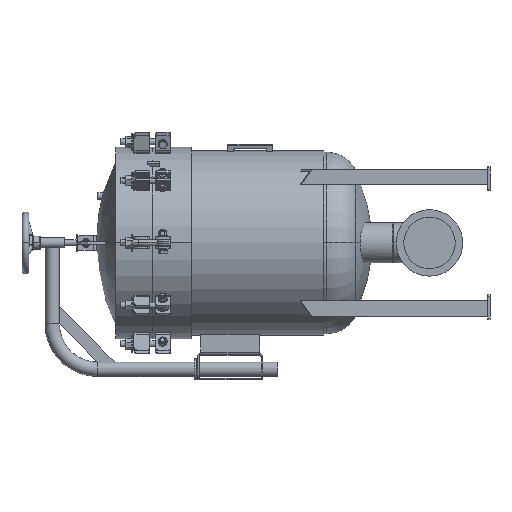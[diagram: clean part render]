
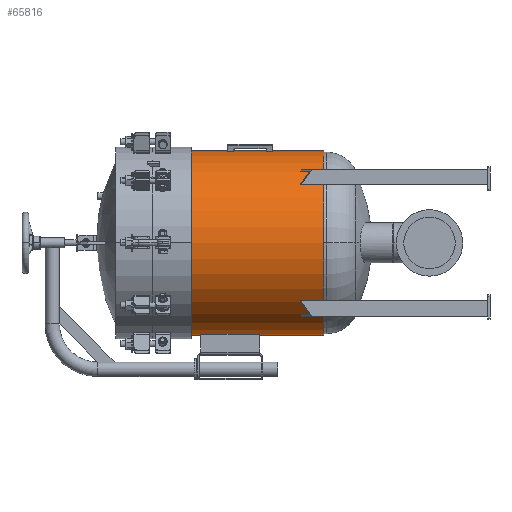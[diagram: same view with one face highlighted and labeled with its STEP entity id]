
A CAD part, left-side view. The second image highlights one B-rep face of the part: STEP entity #65816.
In plain terms, the highlighted cylindrical face has radius 387.35 mm (diameter 774.7 mm), a partial arc.
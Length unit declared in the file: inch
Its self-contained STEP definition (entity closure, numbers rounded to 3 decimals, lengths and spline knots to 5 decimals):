
#1299 = VECTOR ( 'NONE', #5639, 39.37008 ) ;
#2550 = CIRCLE ( 'NONE', #44281, 15.25 ) ;
#2640 = EDGE_CURVE ( 'NONE', #26825, #26752, #49444, .T. ) ;
#3238 = AXIS2_PLACEMENT_3D ( 'NONE', #18023, #38465, #8964 ) ;
#3671 = VECTOR ( 'NONE', #59623, 39.37008 ) ;
#4064 = CARTESIAN_POINT ( 'NONE',  ( -2.4413, -18.9375, 15.05332 ) ) ;
#4130 = CARTESIAN_POINT ( 'NONE',  ( 0., -3.34375, 15.25 ) ) ;
#4870 = FACE_OUTER_BOUND ( 'NONE', #63690, .T. ) ;
#5285 = AXIS2_PLACEMENT_3D ( 'NONE', #21896, #53942, #6476 ) ;
#5639 = DIRECTION ( 'NONE',  ( 0., 1., 0. ) ) ;
#5686 = CARTESIAN_POINT ( 'NONE',  ( 0., -28.34375, 0. ) ) ;
#6444 = VECTOR ( 'NONE', #66122, 39.37008 ) ;
#6476 = DIRECTION ( 'NONE',  ( 0., 0., 1. ) ) ;
#8453 = VERTEX_POINT ( 'NONE', #52765 ) ;
#8964 = DIRECTION ( 'NONE',  ( 0., 0., 1. ) ) ;
#9863 = CARTESIAN_POINT ( 'NONE',  ( 0., -6.5, 0. ) ) ;
#10536 = DIRECTION ( 'NONE',  ( -1., 0., 0. ) ) ;
#11731 = LINE ( 'NONE', #36903, #28017 ) ;
#11880 = ORIENTED_EDGE ( 'NONE', *, *, #55689, .T. ) ;
#16982 = ORIENTED_EDGE ( 'NONE', *, *, #57709, .F. ) ;
#17964 = VERTEX_POINT ( 'NONE', #48110 ) ;
#18023 = CARTESIAN_POINT ( 'NONE',  ( 0., -18.9375, 0. ) ) ;
#19032 = ORIENTED_EDGE ( 'NONE', *, *, #62247, .F. ) ;
#19455 = CARTESIAN_POINT ( 'NONE',  ( -2.37926, -12.5, 15.06325 ) ) ;
#19614 = ORIENTED_EDGE ( 'NONE', *, *, #35535, .F. ) ;
#19892 = ORIENTED_EDGE ( 'NONE', *, *, #34223, .T. ) ;
#21896 = CARTESIAN_POINT ( 'NONE',  ( 0., -12.5, 0. ) ) ;
#21925 = VERTEX_POINT ( 'NONE', #44467 ) ;
#24086 = CIRCLE ( 'NONE', #27309, 15.25 ) ;
#24538 = CIRCLE ( 'NONE', #33118, 15.25 ) ;
#25003 = EDGE_LOOP ( 'NONE', ( #55816, #52275, #19614, #19892 ) ) ;
#25470 = DIRECTION ( 'NONE',  ( 0., 1., 0. ) ) ;
#26467 = VERTEX_POINT ( 'NONE', #36939 ) ;
#26529 = LINE ( 'NONE', #46956, #61362 ) ;
#26752 = VERTEX_POINT ( 'NONE', #39485 ) ;
#26825 = VERTEX_POINT ( 'NONE', #65273 ) ;
#26857 = LINE ( 'NONE', #47280, #3671 ) ;
#27309 = AXIS2_PLACEMENT_3D ( 'NONE', #9863, #56104, #10536 ) ;
#27334 = DIRECTION ( 'NONE',  ( 0., 0., -1. ) ) ;
#27640 = DIRECTION ( 'NONE',  ( 0., -1., 0. ) ) ;
#27713 = ORIENTED_EDGE ( 'NONE', *, *, #28325, .T. ) ;
#27881 = CIRCLE ( 'NONE', #5285, 15.25 ) ;
#28017 = VECTOR ( 'NONE', #57326, 39.37008 ) ;
#28325 = EDGE_CURVE ( 'NONE', #8453, #21925, #24538, .T. ) ;
#28540 = VERTEX_POINT ( 'NONE', #29426 ) ;
#28570 = EDGE_CURVE ( 'NONE', #43298, #30983, #43873, .T. ) ;
#29130 = VECTOR ( 'NONE', #46756, 39.37008 ) ;
#29426 = CARTESIAN_POINT ( 'NONE',  ( 0., -6.5, 15.25 ) ) ;
#30336 = CYLINDRICAL_SURFACE ( 'NONE', #42763, 15.25 ) ;
#30359 = EDGE_CURVE ( 'NONE', #58855, #43298, #51203, .T. ) ;
#30448 = DIRECTION ( 'NONE',  ( 0., -1., 0. ) ) ;
#30629 = ORIENTED_EDGE ( 'NONE', *, *, #28570, .T. ) ;
#30793 = ORIENTED_EDGE ( 'NONE', *, *, #56005, .F. ) ;
#30983 = VERTEX_POINT ( 'NONE', #51699 ) ;
#31126 = CARTESIAN_POINT ( 'NONE',  ( 0., -19.9375, 0. ) ) ;
#31127 = CARTESIAN_POINT ( 'NONE',  ( -2.4413, -3.34375, 15.05332 ) ) ;
#33118 = AXIS2_PLACEMENT_3D ( 'NONE', #5686, #25470, #56285 ) ;
#34007 = CARTESIAN_POINT ( 'NONE',  ( -2.4413, -19.9375, 15.05332 ) ) ;
#34223 = EDGE_CURVE ( 'NONE', #44831, #26825, #2550, .T. ) ;
#35535 = EDGE_CURVE ( 'NONE', #44831, #60091, #26529, .T. ) ;
#36047 = FACE_BOUND ( 'NONE', #61143, .T. ) ;
#36903 = CARTESIAN_POINT ( 'NONE',  ( -2.37926, -19.9375, 15.06325 ) ) ;
#36939 = CARTESIAN_POINT ( 'NONE',  ( 0., -6.5, -15.25 ) ) ;
#38465 = DIRECTION ( 'NONE',  ( 0., 1., 0. ) ) ;
#39485 = CARTESIAN_POINT ( 'NONE',  ( -2.4413, -12.5, 15.05332 ) ) ;
#40049 = DIRECTION ( 'NONE',  ( 0., -1., 0. ) ) ;
#40717 = FACE_BOUND ( 'NONE', #25003, .T. ) ;
#41546 = EDGE_CURVE ( 'NONE', #26752, #60091, #27881, .T. ) ;
#42763 = AXIS2_PLACEMENT_3D ( 'NONE', #45069, #40049, #46405 ) ;
#43298 = VERTEX_POINT ( 'NONE', #4064 ) ;
#43873 = CIRCLE ( 'NONE', #3238, 15.25 ) ;
#44281 = AXIS2_PLACEMENT_3D ( 'NONE', #57800, #27640, #27334 ) ;
#44467 = CARTESIAN_POINT ( 'NONE',  ( 0., -28.34375, 15.25 ) ) ;
#44831 = VERTEX_POINT ( 'NONE', #50727 ) ;
#45069 = CARTESIAN_POINT ( 'NONE',  ( 0., -3.34375, 0. ) ) ;
#45955 = AXIS2_PLACEMENT_3D ( 'NONE', #31126, #30448, #51530 ) ;
#46405 = DIRECTION ( 'NONE',  ( 0., 0., -1. ) ) ;
#46756 = DIRECTION ( 'NONE',  ( 0., 1., 0. ) ) ;
#46956 = CARTESIAN_POINT ( 'NONE',  ( -2.37926, -19.9375, 15.06325 ) ) ;
#47280 = CARTESIAN_POINT ( 'NONE',  ( 0., -3.34375, -15.25 ) ) ;
#48110 = CARTESIAN_POINT ( 'NONE',  ( -2.37926, -19.9375, 15.06325 ) ) ;
#49161 = CIRCLE ( 'NONE', #45955, 15.25 ) ;
#49444 = LINE ( 'NONE', #64867, #29130 ) ;
#50727 = CARTESIAN_POINT ( 'NONE',  ( -2.37926, -13.5, 15.06325 ) ) ;
#51203 = LINE ( 'NONE', #31127, #1299 ) ;
#51530 = DIRECTION ( 'NONE',  ( 0., 0., -1. ) ) ;
#51699 = CARTESIAN_POINT ( 'NONE',  ( -2.37926, -18.9375, 15.06325 ) ) ;
#52275 = ORIENTED_EDGE ( 'NONE', *, *, #41546, .T. ) ;
#52765 = CARTESIAN_POINT ( 'NONE',  ( 0., -28.34375, -15.25 ) ) ;
#53942 = DIRECTION ( 'NONE',  ( 0., 1., 0. ) ) ;
#55051 = LINE ( 'NONE', #4130, #6444 ) ;
#55689 = EDGE_CURVE ( 'NONE', #17964, #58855, #49161, .T. ) ;
#55714 = ORIENTED_EDGE ( 'NONE', *, *, #30359, .T. ) ;
#55816 = ORIENTED_EDGE ( 'NONE', *, *, #2640, .T. ) ;
#56005 = EDGE_CURVE ( 'NONE', #28540, #21925, #55051, .T. ) ;
#56104 = DIRECTION ( 'NONE',  ( 0., 1., 0. ) ) ;
#56285 = DIRECTION ( 'NONE',  ( 1., 0., 0. ) ) ;
#57326 = DIRECTION ( 'NONE',  ( 0., 1., 0. ) ) ;
#57709 = EDGE_CURVE ( 'NONE', #17964, #30983, #11731, .T. ) ;
#57800 = CARTESIAN_POINT ( 'NONE',  ( 0., -13.5, 0. ) ) ;
#58855 = VERTEX_POINT ( 'NONE', #34007 ) ;
#59623 = DIRECTION ( 'NONE',  ( 0., -1., 0. ) ) ;
#59752 = ORIENTED_EDGE ( 'NONE', *, *, #61327, .T. ) ;
#60091 = VERTEX_POINT ( 'NONE', #19455 ) ;
#61143 = EDGE_LOOP ( 'NONE', ( #16982, #11880, #55714, #30629 ) ) ;
#61327 = EDGE_CURVE ( 'NONE', #26467, #8453, #26857, .T. ) ;
#61362 = VECTOR ( 'NONE', #62363, 39.37008 ) ;
#62247 = EDGE_CURVE ( 'NONE', #26467, #28540, #24086, .T. ) ;
#62363 = DIRECTION ( 'NONE',  ( 0., 1., 0. ) ) ;
#63690 = EDGE_LOOP ( 'NONE', ( #30793, #19032, #59752, #27713 ) ) ;
#64867 = CARTESIAN_POINT ( 'NONE',  ( -2.4413, -3.34375, 15.05332 ) ) ;
#65273 = CARTESIAN_POINT ( 'NONE',  ( -2.4413, -13.5, 15.05332 ) ) ;
#65816 = ADVANCED_FACE ( 'NONE', ( #4870, #36047, #40717 ), #30336, .T. ) ;
#66122 = DIRECTION ( 'NONE',  ( 0., -1., 0. ) ) ;
